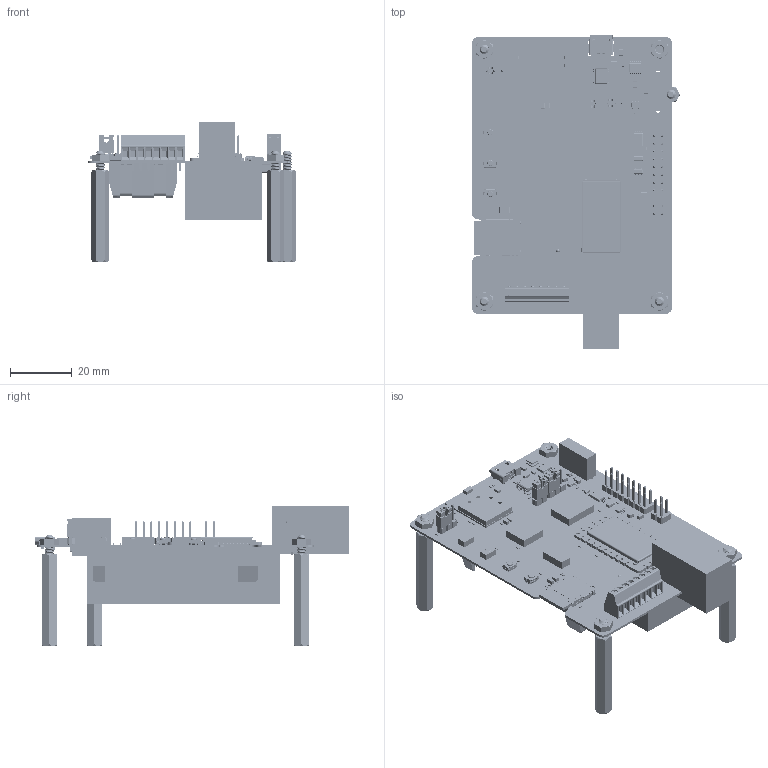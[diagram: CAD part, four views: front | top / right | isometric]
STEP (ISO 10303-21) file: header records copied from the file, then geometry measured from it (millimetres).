
FILE_DESCRIPTION(('Open CASCADE Model'),'2;1');
FILE_NAME('Open CASCADE Shape Model','2020-01-30T16:43:38',('Author'),( 'Open CASCADE'),'Open CASCADE STEP processor 6.8','Open CASCADE 6.8' ,'Unknown');
FILE_SCHEMA(('AUTOMOTIVE_DESIGN { 1 0 10303 214 1 1 1 1 }'));
Products named in the file (1): PCB
Bounding box: 67.66 x 102 x 45.65 mm (x, y, z)
Volume: 42569.1 mm3; surface area: 45135 mm2
Topology: 502 solids, 4272 shells, 14631 faces, 44696 edges, 34177 vertices
Faces by surface type: plane 8841, cylinder 2781, bspline 2464, sphere 351, cone 148, revolution 24, torus 22
Full cylindrical faces by diameter (mm): 0.144 x1, 0.375 x1, 0.5 x1, 0.55 x1, 0.6 x2, 0.762 x28, 0.8 x6, 0.813 x9, 0.9 x4, 1 x1, 1.1 x1, 1.194 x2, 1.2 x37, 1.5 x2, 1.6 x1, 1.9 x1, 2 x1, 3.1 x3
Entity records: 663631 total; most frequent: CARTESIAN_POINT 258716, ORIENTED_EDGE 68538, DIRECTION 68479, EDGE_CURVE 44081, VERTEX_POINT 34177, LINE 30547, VECTOR 30547, AXIS2_PLACEMENT_3D 18954
